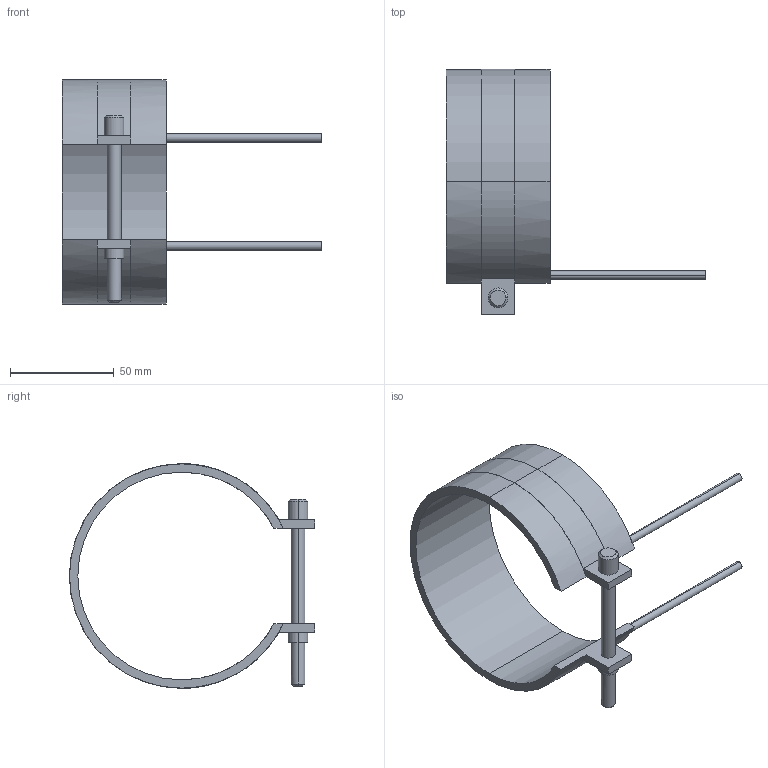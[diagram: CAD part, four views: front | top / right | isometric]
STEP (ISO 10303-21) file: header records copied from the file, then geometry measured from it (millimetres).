
FILE_DESCRIPTION(('CATIA V5 STEP Exchange'),'2;1');
FILE_NAME('C:\Users\Utente\Desktop\IO LAVORO\3D X SITO CF\X SITO\PLASTICA\RF2\14100050.stp','2021-04-03T08:50:33+00:00',('none'),('none'),'CATIA Version 5 Release 20 GA (IN-10)','CATIA V5 STEP AP203','none');
FILE_SCHEMA(('CONFIG_CONTROL_DESIGN'));
Length unit declared in the file: millimetre
Products named in the file (1): 14100050
Bounding box: 125 x 118.1 x 108.2 mm (x, y, z)
Volume: 63604 mm3; surface area: 35561.3 mm2
Topology: 1 solids, 1 shells, 45 faces, 116 edges, 76 vertices
Faces by surface type: cylinder 24, plane 17, cone 4
Entity records: 1400 total; most frequent: CARTESIAN_POINT 274, ORIENTED_EDGE 232, DIRECTION 196, EDGE_CURVE 116, AXIS2_PLACEMENT_3D 104, VERTEX_POINT 76, CIRCLE 62, VECTOR 52
